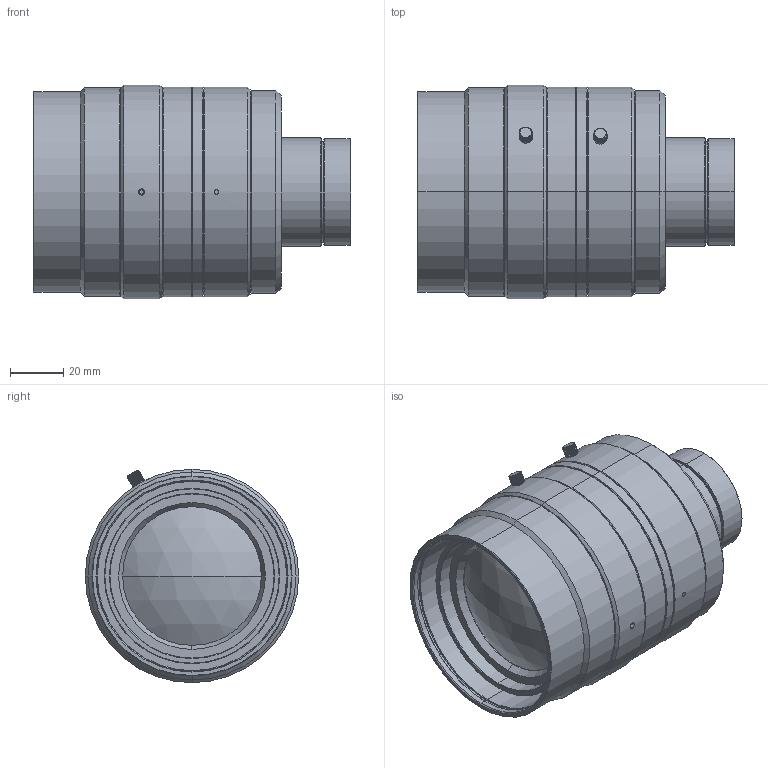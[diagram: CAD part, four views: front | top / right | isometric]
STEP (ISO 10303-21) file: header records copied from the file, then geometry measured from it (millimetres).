
FILE_DESCRIPTION (( 'STEP AP214' ), '1' );
FILE_NAME ('VS-VNC3528_Drawing_M2257A-A00100.STEP', '2026-03-17T04:32:39', ( '' ), ( '' ), 'SwSTEP 2.0', 'SolidWorks 2024', '' );
FILE_SCHEMA (( 'AUTOMOTIVE_DESIGN' ));
Length unit declared in the file: millimetre
Products named in the file (4): LS02004_ロックビス; LS02007_ロックビス(F用); M2257A-A001_VS-VNC3528_Drawing; VS-VNC3528_Drawing_M2257A-A00100
Assembly tree (3 placements, depth 2):
  VS-VNC3528_Drawing_M2257A-A00100
    M2257A-A001_VS-VNC3528_Drawing
    LS02004_ロックビス
    LS02007_ロックビス(F用)
Bounding box: 118.93 x 80 x 80 mm (x, y, z)
Volume: 410819.7 mm3; surface area: 49935.9 mm2
Topology: 3 solids, 3 shells, 305 faces, 728 edges, 462 vertices
Faces by surface type: plane 137, cone 82, cylinder 82, sphere 4
Entity records: 9275 total; most frequent: CARTESIAN_POINT 2285, ORIENTED_EDGE 1456, DIRECTION 1390, EDGE_CURVE 728, AXIS2_PLACEMENT_3D 563, VERTEX_POINT 462, EDGE_LOOP 338, FACE_OUTER_BOUND 305
